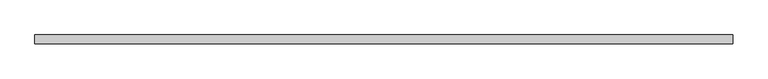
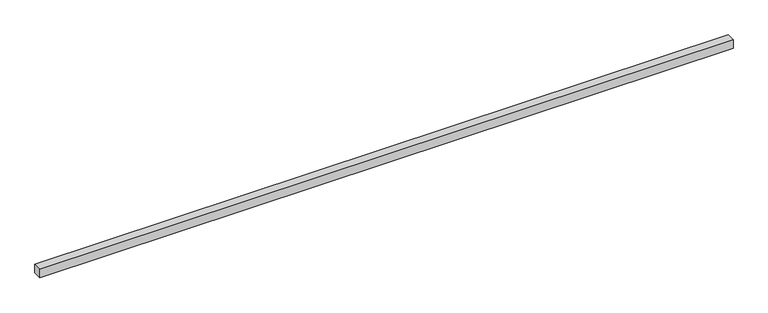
"""IFC4 building model written with IfcOpenShell, lengths in millimetres: proxy geometry, Кабель-каналы_магистральные_цвет-белый : Кабель-канал магистральный 25х25 белый."""

import ifcopenshell
import ifcopenshell.guid

model = None  # the IFC model being written
_history = None  # IfcOwnerHistory: only IFC2X3 demands one
_inside = {}  # id of a spatial element -> (the spatial element, [elements in it])
_under = {}  # id of a project, library or spatial element -> (it, [spatial elements below it])
_declared = {}  # id of a project -> (the project, [libraries it declares])
_typed = {}  # id of a type object -> (the type object, [elements of that type])
_made_of = {}  # id of a material, layer set ... -> (it, [elements and type objects made of it])


def new_model(schema):
    """Start an empty IFC model of exactly this schema.

    Asked for "IFC4X3", IfcOpenShell would pick the latest addendum, in which some entities
    have other attributes; the version numbers below select the first issue.
    IFC2X3 requires an IfcOwnerHistory on every rooted entity: one is made here for all.
    """
    global model, _history
    if schema == "IFC4X3":
        model = ifcopenshell.file(schema_version=(4, 3, 0, 0))
    else:
        model = ifcopenshell.file(schema=schema)
    _inside.clear()
    _under.clear()
    _declared.clear()
    _typed.clear()
    _made_of.clear()
    _history = None
    if model.schema == "IFC2X3":
        org = make("IfcOrganization", Name="unknown")
        user = make(
            "IfcPersonAndOrganization",
            ThePerson=make("IfcPerson", FamilyName="unknown"),
            TheOrganization=org,
        )
        app = make(
            "IfcApplication",
            ApplicationDeveloper=org,
            Version="unknown",
            ApplicationFullName="unknown",
            ApplicationIdentifier="unknown",
        )
        _history = make(
            "IfcOwnerHistory",
            OwningUser=user,
            OwningApplication=app,
            ChangeAction="ADDED",
            CreationDate=0,
        )
    return model


def make(cls, **values):
    """One entity of the class cls with the attributes given. An attribute that is None is left unset."""
    return model.create_entity(
        cls, **{name: value for name, value in values.items() if value is not None}
    )


def rooted(cls, **values):
    """An entity with a GlobalId (a new one), such as an element, a storey or a relation."""
    return make(cls, GlobalId=ifcopenshell.guid.new(), OwnerHistory=_history, **values)


def si_unit(unit_type, name, prefix=None):
    """IfcSIUnit, for example si_unit("LENGTHUNIT", "METRE", prefix="MILLI")."""
    return make("IfcSIUnit", UnitType=unit_type, Prefix=prefix, Name=name)


def assignment(units):
    """IfcUnitAssignment: the units of a project."""
    return None if units is None else make("IfcUnitAssignment", Units=units)


def point(xyz):
    """IfcCartesianPoint."""
    return None if xyz is None else make("IfcCartesianPoint", Coordinates=xyz)


def direction(xyz):
    """IfcDirection."""
    return None if xyz is None else make("IfcDirection", DirectionRatios=xyz)


def frame(location, z_axis=None, x_axis=None):
    """IfcAxis2Placement3D, a coordinate frame: its origin and axes. An axis left out is left unset."""
    return make(
        "IfcAxis2Placement3D",
        Location=point(location),
        Axis=direction(z_axis),
        RefDirection=direction(x_axis),
    )


def origin():
    """The frame at (0, 0, 0) with its axes left unset."""
    return frame((0.0, 0.0, 0.0))


def origin_with_axes():
    """The frame at (0, 0, 0) with the z axis (0, 0, 1) and the x axis (1, 0, 0) written out."""
    return frame((0.0, 0.0, 0.0), z_axis=(0.0, 0.0, 1.0), x_axis=(1.0, 0.0, 0.0))


def place(relative_to, where):
    """IfcLocalPlacement: puts the frame where relative to a parent placement (None: the world)."""
    return make(
        "IfcLocalPlacement", PlacementRelTo=relative_to, RelativePlacement=where
    )


def context(
    kind, dimensions, precision=None, world=None, true_north=None, identifier=None
):
    """IfcGeometricRepresentationContext, for example the 3D "Model" context."""
    return make(
        "IfcGeometricRepresentationContext",
        ContextIdentifier=identifier,
        ContextType=kind,
        CoordinateSpaceDimension=dimensions,
        Precision=precision,
        WorldCoordinateSystem=world,
        TrueNorth=true_north,
    )


def project(units=None, contexts=None):
    """IfcProject with its units and contexts."""
    return rooted(
        "IfcProject",
        Name="project",
        RepresentationContexts=contexts,
        UnitsInContext=assignment(units),
    )


def spatial(cls, under=None, at=None, **own):
    """A site, building, storey or space (cls), placed at a placement, below another one or the project."""
    s = rooted(cls, ObjectPlacement=at, **own)
    if under is not None:
        _under.setdefault(under.id(), (under, []))[1].append(s)
    return s


def polyline(points):
    """IfcPolyline through the points."""
    return make("IfcPolyline", Points=[point(p) for p in points])


def outline(outer, holes=None, kind="AREA"):
    """IfcArbitraryClosedProfileDef: a profile drawn as a closed curve; with holes, ...WithVoids."""
    if holes is None:
        return make("IfcArbitraryClosedProfileDef", ProfileType=kind, OuterCurve=outer)
    return make(
        "IfcArbitraryProfileDefWithVoids",
        ProfileType=kind,
        OuterCurve=outer,
        InnerCurves=holes,
    )


def extrude(swept, where, along, depth):
    """IfcExtrudedAreaSolid: the profile swept, set in the frame where, extruded along a direction by depth."""
    return make(
        "IfcExtrudedAreaSolid",
        SweptArea=swept,
        Position=where,
        ExtrudedDirection=direction(along),
        Depth=depth,
    )


def shape(context_of_items, identifier, shape_type, items):
    """IfcShapeRepresentation: the items that make up one representation, for example the "Body"."""
    return make(
        "IfcShapeRepresentation",
        ContextOfItems=context_of_items,
        RepresentationIdentifier=identifier,
        RepresentationType=shape_type,
        Items=items,
    )


def source(mapping_origin, context_of_items, identifier, shape_type, items):
    """IfcRepresentationMap: a shape defined once, which mapped items show again and again."""
    return make(
        "IfcRepresentationMap",
        MappingOrigin=mapping_origin,
        MappedRepresentation=shape(context_of_items, identifier, shape_type, items),
    )


def transform(
    local_origin,
    x_axis=None,
    y_axis=None,
    z_axis=None,
    scale=None,
    scale2=None,
    scale3=None,
    uniform=True,
):
    """IfcCartesianTransformationOperator3D, or its non-uniform kind. x_axis, y_axis, z_axis: its Axis1, 2, 3."""
    if uniform:
        return make(
            "IfcCartesianTransformationOperator3D",
            Axis1=direction(x_axis),
            Axis2=direction(y_axis),
            LocalOrigin=point(local_origin),
            Scale=scale,
            Axis3=direction(z_axis),
        )
    return make(
        "IfcCartesianTransformationOperator3DnonUniform",
        Axis1=direction(x_axis),
        Axis2=direction(y_axis),
        LocalOrigin=point(local_origin),
        Scale=scale,
        Axis3=direction(z_axis),
        Scale2=scale2,
        Scale3=scale3,
    )


def mapped(mapping_source, mapping_target):
    """IfcMappedItem: shows the shape of a source again, moved by a transform."""
    return make(
        "IfcMappedItem", MappingSource=mapping_source, MappingTarget=mapping_target
    )


def made_of(thing, what):
    """Note that an element or type object is made of a material, layer set ...; save() writes the relation."""
    if what is not None:
        _made_of.setdefault(what.id(), (what, []))[1].append(thing)
    return thing


def element(
    cls,
    number,
    at=None,
    inside=None,
    cuts=None,
    type_object=None,
    material=None,
    context=None,
    identifier="Body",
    shape_type=None,
    held_by="IfcProductDefinitionShape",
    body=None,
    shapes=None,
    **own,
):
    """One element of the class cls, such as IfcWall. Its Tag is "e" and its number.

    at: its placement. inside: the storey or other place that contains it. cuts: it is an
    opening in that element (IfcRelVoidsElement). A single representation is given by context,
    identifier, shape_type and body (its items); several are given by shapes. held_by: the class
    of the entity that holds the representations. save() writes the other relations.
    """
    e = rooted(cls, Tag="e%d" % number, ObjectPlacement=at, **own)
    if body is not None:
        shapes = [shape(context, identifier, shape_type, body)]
    if shapes is not None:
        e.Representation = make(held_by, Representations=shapes)
    if inside is not None:
        _inside.setdefault(inside.id(), (inside, []))[1].append(e)
    if cuts is not None:
        rooted(
            "IfcRelVoidsElement", RelatingBuildingElement=cuts, RelatedOpeningElement=e
        )
    if type_object is not None:
        _typed.setdefault(type_object.id(), (type_object, []))[1].append(e)
    return made_of(e, material)


def aggregate(whole, parts):
    """IfcRelAggregates: a whole, such as a stair, and the parts it consists of."""
    return rooted("IfcRelAggregates", RelatingObject=whole, RelatedObjects=parts)


def save(model, path):
    """Write the relations noted so far, then the file.

    IfcRelAggregates (storeys below a building ...), IfcRelContainedInSpatialStructure (elements
    in a storey), IfcRelDefinesByType, IfcRelAssociatesMaterial and IfcRelDeclares: one each for
    every whole, place, type object, material and project.
    """
    for whole, parts in _under.values():
        aggregate(whole, parts)
    for where, things in _inside.values():
        rooted(
            "IfcRelContainedInSpatialStructure",
            RelatedElements=things,
            RelatingStructure=where,
        )
    for kind, things in _typed.values():
        rooted("IfcRelDefinesByType", RelatedObjects=things, RelatingType=kind)
    for what, things in _made_of.values():
        rooted("IfcRelAssociatesMaterial", RelatedObjects=things, RelatingMaterial=what)
    for by, libraries in _declared.values():
        rooted("IfcRelDeclares", RelatingContext=by, RelatedDefinitions=libraries)
    model.write(path)


def generic_models_a19dc477(model_context):
    return source(origin(), model_context, "Body", "SweptSolid", [
        extrude(outline(polyline([(2000.0, -25.0), (0.0, -25.0), (0.0, 0.0), (2000.0, 0.0), (2000.0, -25.0)])), origin_with_axes(), (0.0, 0.0, 1.0), 25.0),
    ])


if __name__ == "__main__":
    model = new_model("IFC4")
    model_context = context("Model", 3, world=origin())
    ifc_project = project(units=[si_unit("LENGTHUNIT", "METRE", prefix="MILLI")], contexts=[model_context])
    site = spatial("IfcSite", under=ifc_project)
    building = spatial("IfcBuilding", under=site)
    placement = place(None, origin())
    generic_models_shape = generic_models_a19dc477(model_context)
    element("IfcBuildingElementProxy", 1, Name="Кабель-каналы_магистральные_цвет-белый : Кабель-канал магистральный 25х25 белый", ObjectType="Кабель-каналы_магистральные_цвет-белый : Кабель-канал магистральный 25х25 белый", at=placement, inside=building, context=model_context, shape_type="MappedRepresentation", body=[
        mapped(generic_models_shape, transform((0.0, 0.0, 0.0), x_axis=(1.0, 0.0, 0.0), y_axis=(0.0, 1.0, 0.0), z_axis=(0.0, 0.0, 1.0))),
    ])
    save(model, "model.ifc")
